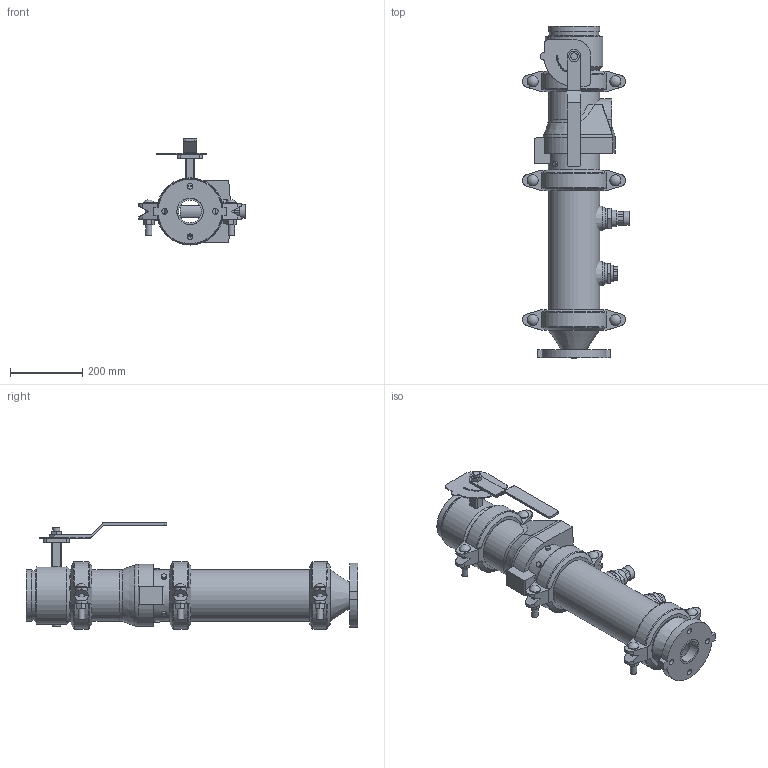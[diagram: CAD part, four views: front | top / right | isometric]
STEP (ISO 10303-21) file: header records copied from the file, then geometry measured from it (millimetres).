
FILE_DESCRIPTION(/* description */ ('VIC DVI PUMP DROP VERT S/380 (OGSxFLG) (S/924-0.75)','CAx-IF Rec.Pracs.---Representation and Presentation of Product Manufacturing Information (PMI)---4.0---2014-10-13'),/* implementation_level */ '2;1');
FILE_NAME(/* name */ 'C:\Users\Public\Documents\Victaulic.Temp\A765\Victaulic_IPS_Vertical DVI_CL 150_Series 380 (OGSxFLG)_924 (0.75)_05.0x02.5 (125x65).stp',/* time_stamp */ '2022-07-25T11:11:12+02:00',/* author */ ('Vjadhav'),/* organization */ ('Victaulic'),/* preprocessor_version */ 'ST-DEVELOPER v18',/* originating_system */ 'Autodesk Inventor 2020',/* authorisation */ '');
FILE_SCHEMA (('AP242_MANAGED_MODEL_BASED_3D_ENGINEERING_MIM_LF { 1 0 10303 442 1 1 4 }'));
Length unit declared in the file: inch
Products named in the file (9): 380_924 (0.75)-05.0x02.5; 741-02.5; 050-05.0x02.5; Pipe-05.0; 177N-05.0; 761-05.0; 779-05.0; 923-04.0x0.75; 924-04.0x0.75
Assembly tree (10 placements, depth 2):
  380_924 (0.75)-05.0x02.5
    741-02.5
    050-05.0x02.5
    177N-05.0  x3
    Pipe-05.0
    761-05.0
    779-05.0
    923-04.0x0.75
    924-04.0x0.75
Bounding box: 294.96 x 917.58 x 293.24 mm (x, y, z)
Volume: 7683667.2 mm3; surface area: 1381123.2 mm2
Topology: 10 solids, 11 shells, 587 faces, 1531 edges, 1024 vertices
Faces by surface type: plane 345, cylinder 196, cone 20, torus 18, sphere 6, bspline 2
Full cylindrical faces by diameter (mm): 4.826 x10, 8.636 x4, 13.716 x4, 15.875 x4, 17.78 x6, 19.05 x2, 22.86 x1, 26.67 x2, 30.48 x6, 38.608 x1, 45.974 x4, 55.118 x1, 55.626 x2, 62.713 x1, 69.088 x1, 73.025 x3, 128.194 x4, 128.6 x3, 137.033 x7, 141.3 x19, 160.02 x1
Entity records: 13928 total; most frequent: CARTESIAN_POINT 2769, DIRECTION 2297, ORIENTED_EDGE 2090, EDGE_CURVE 1045, AXIS2_PLACEMENT_3D 872, VERTEX_POINT 704, LINE 553, VECTOR 553
